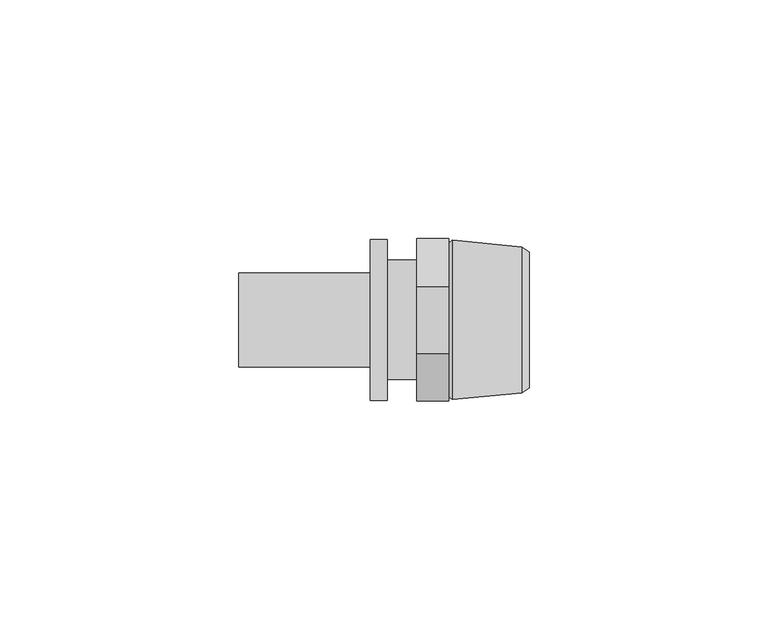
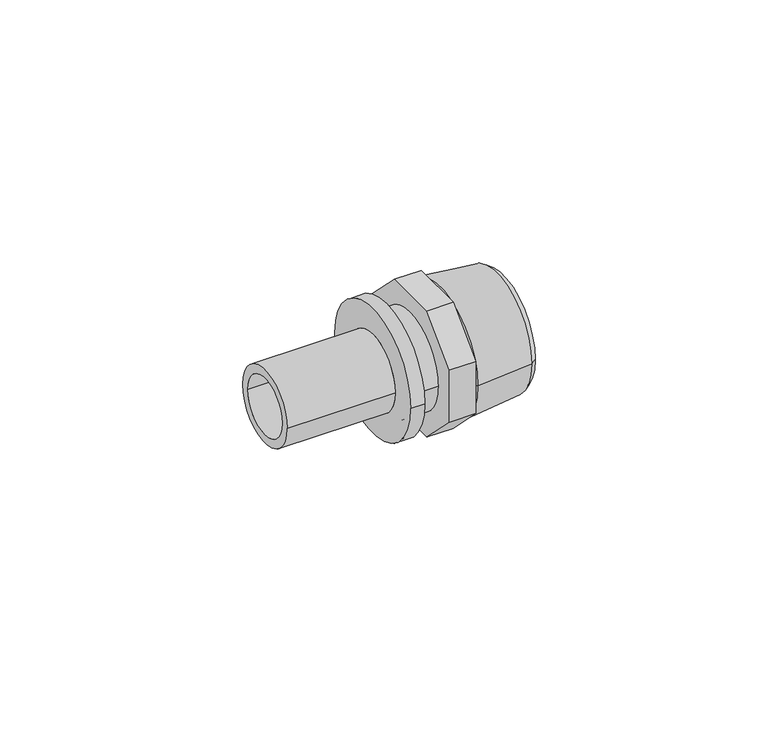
"""IFC4 building model written with IfcOpenShell, lengths in millimetres: pipe fitting geometry, REHAU_RAUTITAN_Adaptor_RX+, with external thread : REHAU_RAUTITAN_Adaptor_RX+, with external thread."""

from ifc_helpers import new_model, si_unit, point, frame, origin, origin_2d, place, context, project, spatial, polyline, circle_curve, trimmed, segment, composite_curve, outline, extrude, source, transform, mapped, element, save
from ifc_brep_helpers import plane_surface, cylinder_surface, revolved_surface, advanced_brep


def pipe_fitting_2987e508(model_context):
    return source(origin(), model_context, "Body", "SolidModel", [
        advanced_brep(
        [(7.8032803, 12.75, 0.0), (7.8032803, -12.75, 0.0), (23.5, -12.75, 0.0), (23.5, 12.75, 0.0), (6.7, 11.6467197, 0.0), (6.7, -11.6467197, 0.0), (7.4406902, 16.69, 0.0), (7.4406902, -16.69, 0.0), (6.7, -16.1, 0.0), (6.7, 16.1, 0.0), (22.0000007, 15.27, 0.0), (22.0000007, -15.27, 0.0), (23.5, 14.235, 0.0), (23.5, -14.235, 0.0)],
        [
            (0, 1, circle_curve(frame((7.8032803, 0.0, 0.0), z_axis=(-1.0, 0.0, 0.0), x_axis=(0.0, -1.0, 0.0)), 12.75)),
            (1, 2),
            (2, 3, circle_curve(frame((23.5, 0.0, 0.0), z_axis=(1.0, 0.0, 0.0), x_axis=(0.0, -1.0, 0.0)), 12.75)),
            (3, 0),
            (4, 5, circle_curve(frame((6.7, 0.0, 0.0), z_axis=(-1.0, 0.0, 0.0), x_axis=(0.0, -1.0, 0.0)), 11.6467197)),
            (5, 1),
            (0, 4),
            (6, 7, circle_curve(frame((7.4406902, 0.0, 0.0), z_axis=(-1.0, 0.0, 0.0), x_axis=(0.0, -1.0, 0.0)), 16.69)),
            (7, 8),
            (8, 9, circle_curve(frame((6.7, 0.0, 0.0), z_axis=(1.0, 0.0, 0.0), x_axis=(0.0, -1.0, 0.0)), 16.1)),
            (9, 6),
            (10, 11, circle_curve(frame((22.0000007, 0.0, 0.0), z_axis=(-1.0, 0.0, 0.0), x_axis=(0.0, -1.0, 0.0)), 15.27)),
            (11, 7),
            (6, 10),
            (12, 13, circle_curve(frame((23.5, 0.0, 0.0), z_axis=(-1.0, 0.0, 0.0), x_axis=(0.0, -1.0, 0.0)), 14.235)),
            (13, 11),
            (10, 12),
            (1, 0, circle_curve(frame((7.8032803, 0.0, 0.0), z_axis=(-1.0, 0.0, 0.0), x_axis=(0.0, 1.0, 0.0)), 12.75)),
            (3, 2, circle_curve(frame((23.5, 0.0, 0.0), z_axis=(1.0, 0.0, 0.0), x_axis=(0.0, 1.0, 0.0)), 12.75)),
            (5, 4, circle_curve(frame((6.7, 0.0, 0.0), z_axis=(-1.0, 0.0, 0.0), x_axis=(0.0, 1.0, 0.0)), 11.6467197)),
            (8, 9, circle_curve(frame((6.7, 0.0, 0.0), z_axis=(-1.0, 0.0, 0.0), x_axis=(0.0, 1.0, 0.0)), 16.1)),
            (7, 6, circle_curve(frame((7.4406902, 0.0, 0.0), z_axis=(-1.0, 0.0, 0.0), x_axis=(0.0, 1.0, 0.0)), 16.69)),
            (11, 10, circle_curve(frame((22.0000007, 0.0, 0.0), z_axis=(-1.0, 0.0, 0.0), x_axis=(0.0, 1.0, 0.0)), 15.27)),
            (13, 12, circle_curve(frame((23.5, 0.0, 0.0), z_axis=(-1.0, 0.0, 0.0), x_axis=(0.0, 1.0, 0.0)), 14.235)),
        ],
        [
            revolved_surface(polyline([(23.5, -12.75, 0.0), (7.8032803, -12.75, 0.0)]), (0.0, 0.0, 0.0), (1.0, 0.0, 0.0)),
            revolved_surface(polyline([(7.8032803, -12.75, 0.0), (6.7, -11.6467197, 0.0)]), (0.0, 0.0, 0.0), (1.0, 0.0, 0.0)),
            revolved_surface(polyline([(6.7, -16.1, 0.0), (7.4406902, -16.69, 0.0)]), (0.0, 0.0, 0.0), (1.0, 0.0, 0.0)),
            revolved_surface(polyline([(7.4406902, -16.69, 0.0), (22.0000007, -15.27, 0.0)]), (0.0, 0.0, 0.0), (1.0, 0.0, 0.0)),
            revolved_surface(polyline([(22.0000007, -15.27, 0.0), (23.5, -14.235, 0.0)]), (0.0, 0.0, 0.0), (1.0, 0.0, 0.0)),
            revolved_surface(polyline([(23.5, 12.75, 0.0), (7.8032803, 12.75, 0.0)]), (0.0, 0.0, 0.0), (1.0, 0.0, 0.0)),
            revolved_surface(polyline([(7.8032803, 12.75, 0.0), (6.7, 11.6467197, 0.0)]), (0.0, 0.0, 0.0), (1.0, 0.0, 0.0)),
            plane_surface(frame((6.7, 0.0, 0.0), z_axis=(-1.0, 0.0, 0.0), x_axis=(0.0, 1.0, 0.0))),
            revolved_surface(polyline([(6.7, 16.1, 0.0), (7.4406902, 16.69, 0.0)]), (0.0, 0.0, 0.0), (1.0, 0.0, 0.0)),
            revolved_surface(polyline([(7.4406902, 16.69, 0.0), (22.0000007, 15.27, 0.0)]), (0.0, 0.0, 0.0), (1.0, 0.0, 0.0)),
            revolved_surface(polyline([(22.0000007, 15.27, 0.0), (23.5, 14.235, 0.0)]), (0.0, 0.0, 0.0), (1.0, 0.0, 0.0)),
            plane_surface(frame((23.5, 0.0, 0.0), z_axis=(1.0, 0.0, 0.0), x_axis=(0.0, 1.0, 0.0))),
        ],
        [
            (0, [[1, 2, 3, 4]]),
            (1, [[5, 6, -1, 7]]),
            (2, [[8, 9, 10, 11]]),
            (3, [[12, 13, -8, 14]]),
            (4, [[15, 16, -12, 17]]),
            (5, [[18, -4, 19, -2]]),
            (6, [[20, -7, -18, -6]]),
            (7, [[21, -10], [-20, -5]]),
            (8, [[22, -11, -21, -9]]),
            (9, [[23, -14, -22, -13]]),
            (10, [[24, -17, -23, -16]]),
            (11, [[-24, -15], [-19, -3]]),
        ],
    ),
        extrude(outline(polyline([(-7.0416306, -17.0), (-17.0, -7.0416306), (-17.0, 7.0416306), (-7.0416306, 17.0), (7.0416306, 17.0), (17.0, 7.0416306), (17.0, -7.0416306), (7.0416306, -17.0), (-7.0416306, -17.0)]), holes=[composite_curve([segment(trimmed(circle_curve(origin_2d(), 7.6), [point((-7.6, 0.0))], [point((7.6, 0.0))], True, "CARTESIAN"), True, "CONTINUOUS"), segment(trimmed(circle_curve(origin_2d(), 7.6), [point((7.6, 0.0))], [point((-7.6, 0.0))], True, "CARTESIAN"), True, "CONTINUOUS")], self_intersect=False)]), frame((0.0, 0.0, 0.0), z_axis=(1.0, 0.0, 0.0), x_axis=(0.0, 1.0, 0.0)), (0.0, 0.0, 1.0), 6.7),
        advanced_brep(
        [(-37.2, 7.6, 0.0), (-37.2, -7.6, 0.0), (0.0, -7.6, 0.0), (0.0, 7.6, 0.0), (-9.72, 9.875, 0.0), (-9.72, -9.875, 0.0), (-37.2, -9.875, 0.0), (-37.2, 9.875, 0.0), (-6.15, 16.8, 0.0), (-6.15, -16.8, 0.0), (-9.72, -16.8, 0.0), (-9.72, 16.8, 0.0), (0.0, 12.5, 0.0), (0.0, -12.5, 0.0), (-6.15, -12.5, 0.0), (-6.15, 12.5, 0.0)],
        [
            (0, 1, circle_curve(frame((-37.2, 0.0, 0.0), z_axis=(-1.0, 0.0, 0.0), x_axis=(0.0, -1.0, 0.0)), 7.6)),
            (1, 2),
            (2, 3, circle_curve(frame((0.0, 0.0, 0.0), z_axis=(1.0, 0.0, 0.0), x_axis=(0.0, -1.0, 0.0)), 7.6)),
            (3, 0),
            (4, 5, circle_curve(frame((-9.72, 0.0, 0.0), z_axis=(-1.0, 0.0, 0.0), x_axis=(0.0, -1.0, 0.0)), 9.875)),
            (5, 6),
            (6, 7, circle_curve(frame((-37.2, 0.0, 0.0), z_axis=(1.0, 0.0, 0.0), x_axis=(0.0, -1.0, 0.0)), 9.875)),
            (7, 4),
            (8, 9, circle_curve(frame((-6.15, 0.0, 0.0), z_axis=(-1.0, 0.0, 0.0), x_axis=(0.0, -1.0, 0.0)), 16.8)),
            (9, 10),
            (10, 11, circle_curve(frame((-9.72, 0.0, 0.0), z_axis=(1.0, 0.0, 0.0), x_axis=(0.0, -1.0, 0.0)), 16.8)),
            (11, 8),
            (12, 13, circle_curve(frame((0.0, 0.0, 0.0), z_axis=(-1.0, 0.0, 0.0), x_axis=(0.0, -1.0, 0.0)), 12.5)),
            (13, 14),
            (14, 15, circle_curve(frame((-6.15, 0.0, 0.0), z_axis=(1.0, 0.0, 0.0), x_axis=(0.0, -1.0, 0.0)), 12.5)),
            (15, 12),
            (12, 13, circle_curve(frame((0.0, 0.0, 0.0), z_axis=(1.0, 0.0, 0.0), x_axis=(0.0, 1.0, 0.0)), 12.5)),
            (2, 3, circle_curve(frame((0.0, 0.0, 0.0), z_axis=(-1.0, 0.0, 0.0), x_axis=(0.0, 1.0, 0.0)), 7.6)),
            (1, 0, circle_curve(frame((-37.2, 0.0, 0.0), z_axis=(-1.0, 0.0, 0.0), x_axis=(0.0, 1.0, 0.0)), 7.6)),
            (6, 7, circle_curve(frame((-37.2, 0.0, 0.0), z_axis=(-1.0, 0.0, 0.0), x_axis=(0.0, 1.0, 0.0)), 9.875)),
            (5, 4, circle_curve(frame((-9.72, 0.0, 0.0), z_axis=(-1.0, 0.0, 0.0), x_axis=(0.0, 1.0, 0.0)), 9.875)),
            (10, 11, circle_curve(frame((-9.72, 0.0, 0.0), z_axis=(-1.0, 0.0, 0.0), x_axis=(0.0, 1.0, 0.0)), 16.8)),
            (9, 8, circle_curve(frame((-6.15, 0.0, 0.0), z_axis=(-1.0, 0.0, 0.0), x_axis=(0.0, 1.0, 0.0)), 16.8)),
            (14, 15, circle_curve(frame((-6.15, 0.0, 0.0), z_axis=(-1.0, 0.0, 0.0), x_axis=(0.0, 1.0, 0.0)), 12.5)),
        ],
        [
            revolved_surface(polyline([(0.0, -7.6, 0.0), (-37.2, -7.6, 0.0)]), (0.0, 0.0, 0.0), (1.0, 0.0, 0.0)),
            cylinder_surface(frame((0.0, 0.0, 0.0), z_axis=(1.0, 0.0, 0.0), x_axis=(0.0, -1.0, 0.0)), 9.875),
            cylinder_surface(frame((0.0, 0.0, 0.0), z_axis=(1.0, 0.0, 0.0), x_axis=(0.0, -1.0, 0.0)), 16.8),
            cylinder_surface(frame((0.0, 0.0, 0.0), z_axis=(1.0, 0.0, 0.0), x_axis=(0.0, -1.0, 0.0)), 12.5),
            plane_surface(frame((0.0, 0.0, 0.0), z_axis=(1.0, 0.0, 0.0), x_axis=(0.0, 1.0, 0.0))),
            revolved_surface(polyline([(0.0, 7.6, 0.0), (-37.2, 7.6, 0.0)]), (0.0, 0.0, 0.0), (1.0, 0.0, 0.0)),
            plane_surface(frame((-37.2, 0.0, 0.0), z_axis=(-1.0, 0.0, 0.0), x_axis=(0.0, 1.0, 0.0))),
            cylinder_surface(frame((0.0, 0.0, 0.0), z_axis=(1.0, 0.0, 0.0), x_axis=(0.0, 1.0, 0.0)), 9.875),
            plane_surface(frame((-9.72, 0.0, 0.0), z_axis=(-1.0, 0.0, 0.0), x_axis=(0.0, 1.0, 0.0))),
            cylinder_surface(frame((0.0, 0.0, 0.0), z_axis=(1.0, 0.0, 0.0), x_axis=(0.0, 1.0, 0.0)), 16.8),
            plane_surface(frame((-6.15, 0.0, 0.0), z_axis=(1.0, 0.0, 0.0), x_axis=(0.0, 1.0, 0.0))),
            cylinder_surface(frame((0.0, 0.0, 0.0), z_axis=(1.0, 0.0, 0.0), x_axis=(0.0, 1.0, 0.0)), 12.5),
        ],
        [
            (0, [[1, 2, 3, 4]]),
            (1, [[5, 6, 7, 8]]),
            (2, [[9, 10, 11, 12]]),
            (3, [[13, 14, 15, 16]]),
            (4, [[17, -13], [18, -3]]),
            (5, [[19, -4, -18, -2]]),
            (6, [[20, -7], [-19, -1]]),
            (7, [[21, -8, -20, -6]]),
            (8, [[22, -11], [-21, -5]]),
            (9, [[23, -12, -22, -10]]),
            (10, [[-23, -9], [24, -15]]),
            (11, [[-17, -16, -24, -14]]),
        ],
    ),
    ])


if __name__ == "__main__":
    model = new_model("IFC4")
    model_context = context("Model", 3, world=origin())
    ifc_project = project(units=[si_unit("LENGTHUNIT", "METRE", prefix="MILLI")], contexts=[model_context])
    site = spatial("IfcSite", under=ifc_project)
    building = spatial("IfcBuilding", under=site)
    placement = place(None, origin())
    pipe_fitting_shape = pipe_fitting_2987e508(model_context)
    element("IfcPipeFitting", 1, ObjectType="REHAU_RAUTITAN_Adaptor_RX+, with external thread : REHAU_RAUTITAN_Adaptor_RX+, with external thread", at=placement, inside=building, context=model_context, shape_type="MappedRepresentation", body=[
        mapped(pipe_fitting_shape, transform((0.0, 0.0, 0.0), x_axis=(1.0, 0.0, 0.0), y_axis=(0.0, 1.0, 0.0), z_axis=(0.0, 0.0, 1.0))),
    ])
    save(model, "model.ifc")
